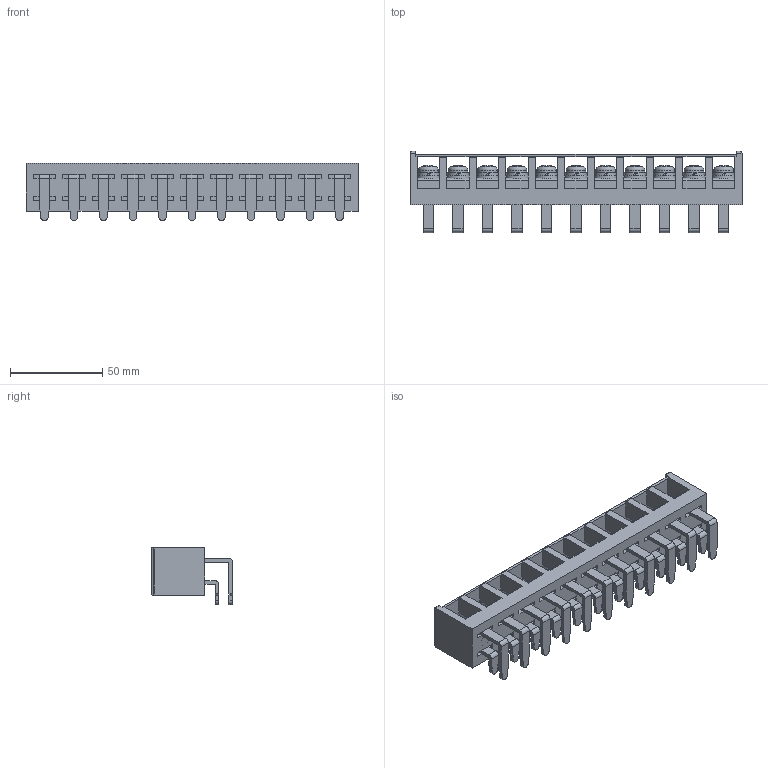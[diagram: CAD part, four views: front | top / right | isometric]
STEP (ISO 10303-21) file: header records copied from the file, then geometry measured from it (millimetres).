
FILE_DESCRIPTION(/* description */ ('Alibre Inc.'),/* implementation_level */ '2;1');
FILE_NAME(/* name */ 'export-38E0FC97-729D-4C9B-B689-0F27E49D977D',/* time_stamp */ '2025-01-30T14:41:49+09:00',/* author */ (''),/* organization */ (''),/* preprocessor_version */ 'ST-DEVELOPER v17',/* originating_system */ 'Alibre',/* authorisation */ '');
FILE_SCHEMA (('CONFIG_CONTROL_DESIGN'));
Length unit declared in the file: millimetre
Bounding box: 180 x 44.1 x 31 mm (x, y, z)
Volume: 90980.1 mm3; surface area: 52780.3 mm2
Topology: 1 solids, 2 shells, 1361 faces, 3870 edges, 2522 vertices
Faces by surface type: plane 964, cylinder 180, bspline 150, cone 45, torus 11, sphere 11
Full cylindrical faces by diameter (mm): 6 x1, 10.5 x11, 12.5 x10
Entity records: 40852 total; most frequent: CARTESIAN_POINT 8843, ORIENTED_EDGE 7630, DIRECTION 4969, EDGE_CURVE 3815, VERTEX_POINT 2501, VECTOR 2465, LINE 2465, AXIS2_PLACEMENT_3D 1637
